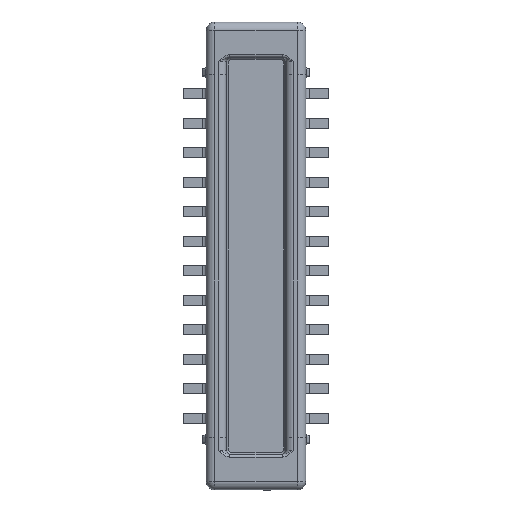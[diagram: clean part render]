
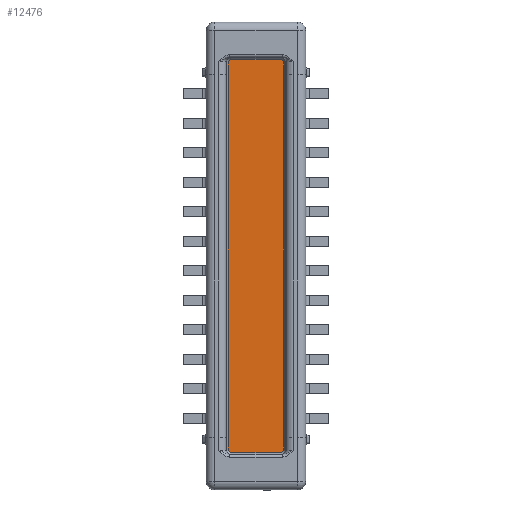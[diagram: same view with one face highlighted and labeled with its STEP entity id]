
A CAD part, top view. The second image highlights one B-rep face of the part: STEP entity #12476.
In plain terms, the highlighted planar face has unit normal (0, 0, 1).
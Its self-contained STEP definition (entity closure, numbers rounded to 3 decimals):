
#302 = EDGE_LOOP ( 'NONE', ( #15531, #867, #2041, #19559, #10365, #14892, #5188, #17251, #1957, #11832, #12878, #2911 ) ) ;
#324 = LINE ( 'NONE', #3969, #7986 ) ;
#370 = VERTEX_POINT ( 'NONE', #1280 ) ;
#404 = LINE ( 'NONE', #8429, #3955 ) ;
#407 = LINE ( 'NONE', #14385, #16158 ) ;
#793 = CARTESIAN_POINT ( 'NONE',  ( -0.33, -4.075, 0.258 ) ) ;
#867 = ORIENTED_EDGE ( 'NONE', *, *, #18208, .F. ) ;
#1140 = AXIS2_PLACEMENT_3D ( 'NONE', #6064, #16701, #7580 ) ;
#1185 = EDGE_CURVE ( 'NONE', #8907, #370, #17050, .T. ) ;
#1253 = CARTESIAN_POINT ( 'NONE',  ( -0.33, 0.365, 0.258 ) ) ;
#1280 = CARTESIAN_POINT ( 'NONE',  ( 0.33, 0.365, 0.258 ) ) ;
#1325 = CARTESIAN_POINT ( 'NONE',  ( -0.285, 0.41, 0.258 ) ) ;
#1416 = VERTEX_POINT ( 'NONE', #16568 ) ;
#1662 = VECTOR ( 'NONE', #3854, 1000. ) ;
#1911 = CARTESIAN_POINT ( 'NONE',  ( -0.312, -4.26, 0.258 ) ) ;
#1941 = CARTESIAN_POINT ( 'NONE',  ( -0.35, -4.26, 0.258 ) ) ;
#1957 = ORIENTED_EDGE ( 'NONE', *, *, #2205, .T. ) ;
#2041 = ORIENTED_EDGE ( 'NONE', *, *, #12075, .F. ) ;
#2205 = EDGE_CURVE ( 'NONE', #370, #18912, #13394, .T. ) ;
#2234 = CARTESIAN_POINT ( 'NONE',  ( 0.33, 0.34, 0.258 ) ) ;
#2911 = ORIENTED_EDGE ( 'NONE', *, *, #8178, .T. ) ;
#3239 = VECTOR ( 'NONE', #9957, 1000. ) ;
#3854 = DIRECTION ( 'NONE',  ( 0., -1., 0. ) ) ;
#3955 = VECTOR ( 'NONE', #11455, 1000. ) ;
#3969 = CARTESIAN_POINT ( 'NONE',  ( -0.33, 0.225, 0.258 ) ) ;
#4100 = VERTEX_POINT ( 'NONE', #16915 ) ;
#4393 = CARTESIAN_POINT ( 'NONE',  ( -0.33, 0.365, 0.258 ) ) ;
#4493 = VERTEX_POINT ( 'NONE', #6056 ) ;
#4788 = VERTEX_POINT ( 'NONE', #14860 ) ;
#4981 = CARTESIAN_POINT ( 'NONE',  ( -0.33, -4.242, 0.258 ) ) ;
#5188 = ORIENTED_EDGE ( 'NONE', *, *, #19231, .T. ) ;
#5327 = VECTOR ( 'NONE', #12824, 1000. ) ;
#5540 = DIRECTION ( 'NONE',  ( 0., -1., 0. ) ) ;
#5571 = CARTESIAN_POINT ( 'NONE',  ( 0.33, -4.242, 0.258 ) ) ;
#5669 = LINE ( 'NONE', #1941, #9730 ) ;
#5891 = CARTESIAN_POINT ( 'NONE',  ( 0.33, -4.075, 0.258 ) ) ;
#6003 = CARTESIAN_POINT ( 'NONE',  ( 0.33, 0.225, 0.258 ) ) ;
#6056 = CARTESIAN_POINT ( 'NONE',  ( 0.285, -4.26, 0.258 ) ) ;
#6064 = CARTESIAN_POINT ( 'NONE',  ( 0.35, -7.09, 0.258 ) ) ;
#6383 =( BOUNDED_CURVE ( )  B_SPLINE_CURVE ( 3, ( #13050, #5571, #17791, #8620 ),
 .UNSPECIFIED., .F., .T. ) 
 B_SPLINE_CURVE_WITH_KNOTS ( ( 4, 4 ),
 ( 2.457, 3.826 ),
 .UNSPECIFIED. ) 
 CURVE ( )  GEOMETRIC_REPRESENTATION_ITEM ( )  RATIONAL_B_SPLINE_CURVE ( ( 1., 0.85, 0.85, 1. ) ) 
 REPRESENTATION_ITEM ( '' )  );
#6526 = CARTESIAN_POINT ( 'NONE',  ( 0.33, 0.365, 0.258 ) ) ;
#7452 =( BOUNDED_CURVE ( )  B_SPLINE_CURVE ( 3, ( #12562, #1911, #4981, #15648 ),
 .UNSPECIFIED., .F., .T. ) 
 B_SPLINE_CURVE_WITH_KNOTS ( ( 4, 4 ),
 ( 5.598, 6.968 ),
 .UNSPECIFIED. ) 
 CURVE ( )  GEOMETRIC_REPRESENTATION_ITEM ( )  RATIONAL_B_SPLINE_CURVE ( ( 1., 0.85, 0.85, 1. ) ) 
 REPRESENTATION_ITEM ( '' )  );
#7580 = DIRECTION ( 'NONE',  ( 1., 0., 0. ) ) ;
#7614 = CARTESIAN_POINT ( 'NONE',  ( 0.33, 0.392, 0.258 ) ) ;
#7744 = CARTESIAN_POINT ( 'NONE',  ( -0.285, 0.41, 0.258 ) ) ;
#7986 = VECTOR ( 'NONE', #5540, 1000. ) ;
#8178 = EDGE_CURVE ( 'NONE', #12835, #4788, #324, .T. ) ;
#8277 = CARTESIAN_POINT ( 'NONE',  ( 0.33, 0.43, 0.258 ) ) ;
#8369 = VERTEX_POINT ( 'NONE', #7744 ) ;
#8429 = CARTESIAN_POINT ( 'NONE',  ( 0.33, -4.28, 0.258 ) ) ;
#8470 = VERTEX_POINT ( 'NONE', #9466 ) ;
#8620 = CARTESIAN_POINT ( 'NONE',  ( 0.285, -4.26, 0.258 ) ) ;
#8907 = VERTEX_POINT ( 'NONE', #6003 ) ;
#9123 = CARTESIAN_POINT ( 'NONE',  ( 0.312, 0.41, 0.258 ) ) ;
#9361 = VERTEX_POINT ( 'NONE', #5891 ) ;
#9466 = CARTESIAN_POINT ( 'NONE',  ( -0.33, -4.075, 0.258 ) ) ;
#9621 =( BOUNDED_CURVE ( )  B_SPLINE_CURVE ( 3, ( #1325, #10455, #13522, #4393 ),
 .UNSPECIFIED., .F., .T. ) 
 B_SPLINE_CURVE_WITH_KNOTS ( ( 4, 4 ),
 ( 5.598, 6.968 ),
 .UNSPECIFIED. ) 
 CURVE ( )  GEOMETRIC_REPRESENTATION_ITEM ( )  RATIONAL_B_SPLINE_CURVE ( ( 1., 0.85, 0.85, 1. ) ) 
 REPRESENTATION_ITEM ( '' )  );
#9730 = VECTOR ( 'NONE', #11064, 1000. ) ;
#9957 = DIRECTION ( 'NONE',  ( 0., 1., 0. ) ) ;
#10350 = EDGE_CURVE ( 'NONE', #4788, #8470, #13314, .T. ) ;
#10365 = ORIENTED_EDGE ( 'NONE', *, *, #11302, .F. ) ;
#10455 = CARTESIAN_POINT ( 'NONE',  ( -0.312, 0.41, 0.258 ) ) ;
#11064 = DIRECTION ( 'NONE',  ( -1., 0., 0. ) ) ;
#11302 = EDGE_CURVE ( 'NONE', #1416, #4493, #6383, .T. ) ;
#11351 = DIRECTION ( 'NONE',  ( 0., 1., 0. ) ) ;
#11455 = DIRECTION ( 'NONE',  ( 0., -1., 0. ) ) ;
#11697 = VERTEX_POINT ( 'NONE', #14620 ) ;
#11832 = ORIENTED_EDGE ( 'NONE', *, *, #15109, .T. ) ;
#12075 = EDGE_CURVE ( 'NONE', #4100, #11697, #7452, .T. ) ;
#12476 = ADVANCED_FACE ( 'NONE', ( #18837 ), #19716, .T. ) ;
#12562 = CARTESIAN_POINT ( 'NONE',  ( -0.285, -4.26, 0.258 ) ) ;
#12824 = DIRECTION ( 'NONE',  ( 0., 1., 0. ) ) ;
#12835 = VERTEX_POINT ( 'NONE', #1253 ) ;
#12878 = ORIENTED_EDGE ( 'NONE', *, *, #13626, .T. ) ;
#13050 = CARTESIAN_POINT ( 'NONE',  ( 0.33, -4.215, 0.258 ) ) ;
#13314 = LINE ( 'NONE', #16425, #1662 ) ;
#13394 =( BOUNDED_CURVE ( )  B_SPLINE_CURVE ( 3, ( #6526, #7614, #9123, #19825 ),
 .UNSPECIFIED., .F., .T. ) 
 B_SPLINE_CURVE_WITH_KNOTS ( ( 4, 4 ),
 ( 2.457, 3.826 ),
 .UNSPECIFIED. ) 
 CURVE ( )  GEOMETRIC_REPRESENTATION_ITEM ( )  RATIONAL_B_SPLINE_CURVE ( ( 1., 0.85, 0.85, 1. ) ) 
 REPRESENTATION_ITEM ( '' )  );
#13522 = CARTESIAN_POINT ( 'NONE',  ( -0.33, 0.392, 0.258 ) ) ;
#13567 = CARTESIAN_POINT ( 'NONE',  ( 0.285, 0.41, 0.258 ) ) ;
#13626 = EDGE_CURVE ( 'NONE', #8369, #12835, #9621, .T. ) ;
#14385 = CARTESIAN_POINT ( 'NONE',  ( -0.35, 0.41, 0.258 ) ) ;
#14620 = CARTESIAN_POINT ( 'NONE',  ( -0.33, -4.215, 0.258 ) ) ;
#14860 = CARTESIAN_POINT ( 'NONE',  ( -0.33, 0.225, 0.258 ) ) ;
#14892 = ORIENTED_EDGE ( 'NONE', *, *, #17449, .F. ) ;
#15109 = EDGE_CURVE ( 'NONE', #18912, #8369, #407, .T. ) ;
#15531 = ORIENTED_EDGE ( 'NONE', *, *, #10350, .T. ) ;
#15648 = CARTESIAN_POINT ( 'NONE',  ( -0.33, -4.215, 0.258 ) ) ;
#16158 = VECTOR ( 'NONE', #17499, 1000. ) ;
#16425 = CARTESIAN_POINT ( 'NONE',  ( -0.33, -5.69, 0.258 ) ) ;
#16568 = CARTESIAN_POINT ( 'NONE',  ( 0.33, -4.215, 0.258 ) ) ;
#16701 = DIRECTION ( 'NONE',  ( 0., 0., 1. ) ) ;
#16915 = CARTESIAN_POINT ( 'NONE',  ( -0.285, -4.26, 0.258 ) ) ;
#17050 = LINE ( 'NONE', #8277, #5327 ) ;
#17251 = ORIENTED_EDGE ( 'NONE', *, *, #1185, .T. ) ;
#17449 = EDGE_CURVE ( 'NONE', #9361, #1416, #404, .T. ) ;
#17499 = DIRECTION ( 'NONE',  ( -1., 0., 0. ) ) ;
#17526 = VECTOR ( 'NONE', #11351, 1000. ) ;
#17791 = CARTESIAN_POINT ( 'NONE',  ( 0.312, -4.26, 0.258 ) ) ;
#17902 = EDGE_CURVE ( 'NONE', #4493, #4100, #5669, .T. ) ;
#18026 = LINE ( 'NONE', #2234, #17526 ) ;
#18208 = EDGE_CURVE ( 'NONE', #11697, #8470, #18999, .T. ) ;
#18837 = FACE_OUTER_BOUND ( 'NONE', #302, .T. ) ;
#18912 = VERTEX_POINT ( 'NONE', #13567 ) ;
#18999 = LINE ( 'NONE', #793, #3239 ) ;
#19231 = EDGE_CURVE ( 'NONE', #9361, #8907, #18026, .T. ) ;
#19559 = ORIENTED_EDGE ( 'NONE', *, *, #17902, .F. ) ;
#19716 = PLANE ( 'NONE',  #1140 ) ;
#19825 = CARTESIAN_POINT ( 'NONE',  ( 0.285, 0.41, 0.258 ) ) ;
